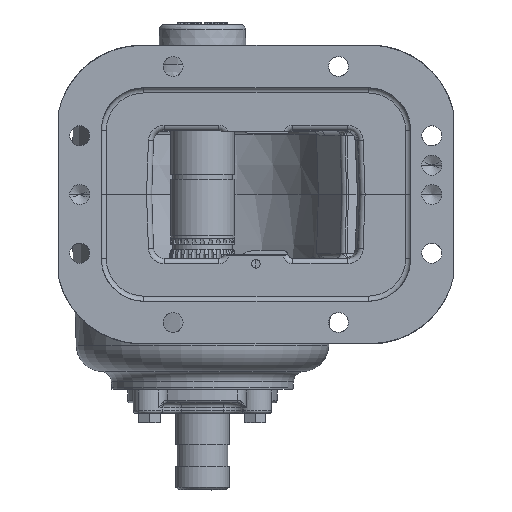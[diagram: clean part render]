
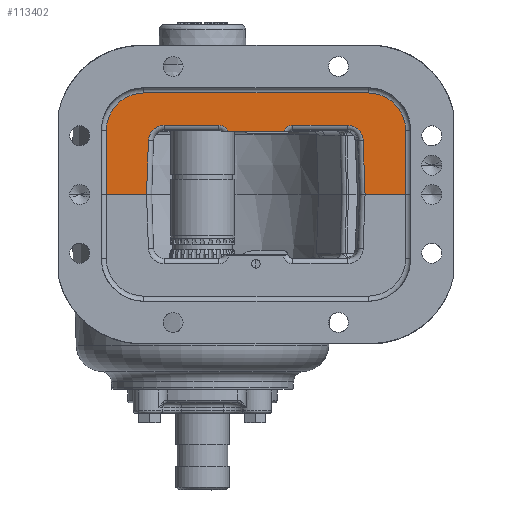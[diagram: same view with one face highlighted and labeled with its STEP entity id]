
A CAD part, front view. The second image highlights one B-rep face of the part: STEP entity #113402.
In plain terms, the highlighted planar face has unit normal (0, -1, 0).
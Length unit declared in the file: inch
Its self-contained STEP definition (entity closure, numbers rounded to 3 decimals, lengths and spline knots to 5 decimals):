
#1937 = DIRECTION ( 'NONE',  ( 0., -1., 0. ) ) ;
#3059 = EDGE_CURVE ( 'NONE', #14986, #62909, #58777, .T. ) ;
#3859 = ORIENTED_EDGE ( 'NONE', *, *, #99992, .F. ) ;
#3902 = CARTESIAN_POINT ( 'NONE',  ( 0., -4.3, -1.31007 ) ) ;
#4224 = LINE ( 'NONE', #63021, #30170 ) ;
#6053 = DIRECTION ( 'NONE',  ( 0.999, 0., -0.035 ) ) ;
#6973 = DIRECTION ( 'NONE',  ( 0., 1., 0. ) ) ;
#8438 = VERTEX_POINT ( 'NONE', #100921 ) ;
#8921 = CARTESIAN_POINT ( 'NONE',  ( -1.25, -4.3, 3.3962 ) ) ;
#9689 = CARTESIAN_POINT ( 'NONE',  ( 0., -4.3, 3.81007 ) ) ;
#10629 = CARTESIAN_POINT ( 'NONE',  ( -1.47, -4.3, -3.37 ) ) ;
#14228 = ORIENTED_EDGE ( 'NONE', *, *, #101539, .F. ) ;
#14986 = VERTEX_POINT ( 'NONE', #60827 ) ;
#16171 = CARTESIAN_POINT ( 'NONE',  ( -1.38, -4.3, 2.11752 ) ) ;
#18561 = VECTOR ( 'NONE', #61166, 39.37008 ) ;
#19119 = CIRCLE ( 'NONE', #106858, 0.24 ) ;
#19628 = VERTEX_POINT ( 'NONE', #93916 ) ;
#19778 = VECTOR ( 'NONE', #6053, 39.37008 ) ;
#21089 = CIRCLE ( 'NONE', #119016, 0.37 ) ;
#21224 = CARTESIAN_POINT ( 'NONE',  ( -1.5, -4.3, 4.76 ) ) ;
#21642 = VERTEX_POINT ( 'NONE', #72570 ) ;
#22176 = CARTESIAN_POINT ( 'NONE',  ( 0., -4.3, -3.37 ) ) ;
#23406 = VECTOR ( 'NONE', #120718, 39.37008 ) ;
#24895 = DIRECTION ( 'NONE',  ( 0., 0., 1. ) ) ;
#25577 = CARTESIAN_POINT ( 'NONE',  ( -1.47, -4.3, 1.89503 ) ) ;
#25608 = DIRECTION ( 'NONE',  ( 0., 0., -1. ) ) ;
#28134 = ORIENTED_EDGE ( 'NONE', *, *, #119642, .F. ) ;
#28279 = CARTESIAN_POINT ( 'NONE',  ( 0., -4.3, 4.76 ) ) ;
#29312 = ORIENTED_EDGE ( 'NONE', *, *, #3059, .F. ) ;
#29441 = CARTESIAN_POINT ( 'NONE',  ( -1.38, -4.3, 0.38248 ) ) ;
#29536 = AXIS2_PLACEMENT_3D ( 'NONE', #16171, #64098, #65981 ) ;
#30170 = VECTOR ( 'NONE', #101966, 39.37008 ) ;
#32479 = ORIENTED_EDGE ( 'NONE', *, *, #91728, .F. ) ;
#32543 = VECTOR ( 'NONE', #82544, 39.37008 ) ;
#32628 = LINE ( 'NONE', #83054, #23406 ) ;
#33367 = LINE ( 'NONE', #100439, #32543 ) ;
#35810 = CARTESIAN_POINT ( 'NONE',  ( -1.62, -4.3, 3.3962 ) ) ;
#36459 = ORIENTED_EDGE ( 'NONE', *, *, #71368, .F. ) ;
#37047 = AXIS2_PLACEMENT_3D ( 'NONE', #73549, #91460, #43522 ) ;
#37447 = DIRECTION ( 'NONE',  ( 0., 0., -1. ) ) ;
#37695 = DIRECTION ( 'NONE',  ( 0., -1., 0. ) ) ;
#37729 = AXIS2_PLACEMENT_3D ( 'NONE', #59485, #51137, #79934 ) ;
#38431 = EDGE_CURVE ( 'NONE', #110970, #8438, #68359, .T. ) ;
#39389 = LINE ( 'NONE', #10629, #101754 ) ;
#39749 = CIRCLE ( 'NONE', #37729, 0.88 ) ;
#39824 = ORIENTED_EDGE ( 'NONE', *, *, #90147, .F. ) ;
#40970 = CARTESIAN_POINT ( 'NONE',  ( -1.5, -4.3, -2.25 ) ) ;
#43522 = DIRECTION ( 'NONE',  ( 0., 0., -1. ) ) ;
#43546 = EDGE_CURVE ( 'NONE', #19628, #113345, #109696, .T. ) ;
#44068 = CARTESIAN_POINT ( 'NONE',  ( -1.62, -4.3, -0.8962 ) ) ;
#44525 = VERTEX_POINT ( 'NONE', #89167 ) ;
#47754 = VERTEX_POINT ( 'NONE', #25577 ) ;
#47844 = CIRCLE ( 'NONE', #29536, 0.24 ) ;
#51137 = DIRECTION ( 'NONE',  ( 0., 1., 0. ) ) ;
#51144 = ORIENTED_EDGE ( 'NONE', *, *, #119796, .F. ) ;
#52267 = ORIENTED_EDGE ( 'NONE', *, *, #101505, .F. ) ;
#52880 = ORIENTED_EDGE ( 'NONE', *, *, #60495, .F. ) ;
#53756 = CARTESIAN_POINT ( 'NONE',  ( 0., -4.3, 4.76 ) ) ;
#54729 = CARTESIAN_POINT ( 'NONE',  ( -1.25, -4.3, -0.8962 ) ) ;
#56346 = CARTESIAN_POINT ( 'NONE',  ( 0., -4.3, -3.37 ) ) ;
#56611 = DIRECTION ( 'NONE',  ( 0., -1., 0. ) ) ;
#57037 = LINE ( 'NONE', #28279, #76254 ) ;
#58777 = CIRCLE ( 'NONE', #95489, 0.88 ) ;
#59485 = CARTESIAN_POINT ( 'NONE',  ( -1.5, -4.3, -1.37 ) ) ;
#60495 = EDGE_CURVE ( 'NONE', #97739, #67225, #4224, .T. ) ;
#60733 = DIRECTION ( 'NONE',  ( 0., 0., -1. ) ) ;
#60827 = CARTESIAN_POINT ( 'NONE',  ( -2.38, -4.3, 3.88 ) ) ;
#61166 = DIRECTION ( 'NONE',  ( 0., 0., 1. ) ) ;
#62909 = VERTEX_POINT ( 'NONE', #21224 ) ;
#63021 = CARTESIAN_POINT ( 'NONE',  ( -1.26291, -4.3, 3.76597 ) ) ;
#63328 = PLANE ( 'NONE',  #37047 ) ;
#64098 = DIRECTION ( 'NONE',  ( 0., -1., 0. ) ) ;
#64396 = VERTEX_POINT ( 'NONE', #53756 ) ;
#64407 = EDGE_CURVE ( 'NONE', #19628, #68847, #33367, .T. ) ;
#65981 = DIRECTION ( 'NONE',  ( 0., 0., -1. ) ) ;
#66562 = VECTOR ( 'NONE', #24895, 39.37008 ) ;
#67225 = VERTEX_POINT ( 'NONE', #84202 ) ;
#68359 = CIRCLE ( 'NONE', #117296, 0.37 ) ;
#68847 = VERTEX_POINT ( 'NONE', #40970 ) ;
#71368 = EDGE_CURVE ( 'NONE', #67225, #103862, #21089, .T. ) ;
#72522 = CARTESIAN_POINT ( 'NONE',  ( -0.00419, -4.3, -1.30993 ) ) ;
#72570 = CARTESIAN_POINT ( 'NONE',  ( -1.62, -4.3, 2.11752 ) ) ;
#72672 = VECTOR ( 'NONE', #121963, 39.37008 ) ;
#73471 = LINE ( 'NONE', #112409, #66562 ) ;
#73549 = CARTESIAN_POINT ( 'NONE',  ( -3.5, -4.3, -3.37 ) ) ;
#74113 = CARTESIAN_POINT ( 'NONE',  ( -1.5, -4.3, 3.88 ) ) ;
#74900 = ORIENTED_EDGE ( 'NONE', *, *, #94859, .T. ) ;
#74953 = VERTEX_POINT ( 'NONE', #92903 ) ;
#75560 = LINE ( 'NONE', #56346, #88858 ) ;
#76254 = VECTOR ( 'NONE', #95989, 39.37008 ) ;
#77386 = CARTESIAN_POINT ( 'NONE',  ( -1.62, -4.3, -0.8962 ) ) ;
#78363 = DIRECTION ( 'NONE',  ( 0., 0., -1. ) ) ;
#79934 = DIRECTION ( 'NONE',  ( 0., 0., -1. ) ) ;
#80624 = FACE_OUTER_BOUND ( 'NONE', #99726, .T. ) ;
#82544 = DIRECTION ( 'NONE',  ( -1., 0., 0. ) ) ;
#83054 = CARTESIAN_POINT ( 'NONE',  ( -1.62, -4.3, 2.11752 ) ) ;
#84202 = CARTESIAN_POINT ( 'NONE',  ( -1.26291, -4.3, 3.76597 ) ) ;
#85605 = ORIENTED_EDGE ( 'NONE', *, *, #38431, .F. ) ;
#88461 = VERTEX_POINT ( 'NONE', #99045 ) ;
#88858 = VECTOR ( 'NONE', #121529, 39.37008 ) ;
#89167 = CARTESIAN_POINT ( 'NONE',  ( -1.62, -4.3, 0.38248 ) ) ;
#90147 = EDGE_CURVE ( 'NONE', #47754, #74953, #39389, .T. ) ;
#91460 = DIRECTION ( 'NONE',  ( 0., 1., 0. ) ) ;
#91728 = EDGE_CURVE ( 'NONE', #62909, #64396, #57037, .T. ) ;
#92903 = CARTESIAN_POINT ( 'NONE',  ( -1.47, -4.3, 0.60497 ) ) ;
#93916 = CARTESIAN_POINT ( 'NONE',  ( 0., -4.3, -2.25 ) ) ;
#94859 = EDGE_CURVE ( 'NONE', #97739, #64396, #75560, .T. ) ;
#95489 = AXIS2_PLACEMENT_3D ( 'NONE', #74113, #6973, #113043 ) ;
#95989 = DIRECTION ( 'NONE',  ( 1., 0., 0. ) ) ;
#97739 = VERTEX_POINT ( 'NONE', #9689 ) ;
#99009 = ORIENTED_EDGE ( 'NONE', *, *, #118511, .F. ) ;
#99045 = CARTESIAN_POINT ( 'NONE',  ( -2.38, -4.3, -1.37 ) ) ;
#99726 = EDGE_LOOP ( 'NONE', ( #39824, #116037, #51144, #36459, #52880, #74900, #32479, #29312, #14228, #28134, #101818, #100023, #3859, #85605, #52267, #99009 ) ) ;
#99992 = EDGE_CURVE ( 'NONE', #8438, #113345, #121020, .T. ) ;
#100023 = ORIENTED_EDGE ( 'NONE', *, *, #43546, .T. ) ;
#100439 = CARTESIAN_POINT ( 'NONE',  ( -1.5, -4.3, -2.25 ) ) ;
#100921 = CARTESIAN_POINT ( 'NONE',  ( -1.26291, -4.3, -1.26597 ) ) ;
#101505 = EDGE_CURVE ( 'NONE', #44525, #110970, #113034, .T. ) ;
#101539 = EDGE_CURVE ( 'NONE', #88461, #14986, #73471, .T. ) ;
#101754 = VECTOR ( 'NONE', #78363, 39.37008 ) ;
#101818 = ORIENTED_EDGE ( 'NONE', *, *, #64407, .F. ) ;
#101966 = DIRECTION ( 'NONE',  ( -0.999, 0., -0.035 ) ) ;
#103862 = VERTEX_POINT ( 'NONE', #35810 ) ;
#106858 = AXIS2_PLACEMENT_3D ( 'NONE', #29441, #1937, #60733 ) ;
#109696 = LINE ( 'NONE', #22176, #18561 ) ;
#110970 = VERTEX_POINT ( 'NONE', #77386 ) ;
#112409 = CARTESIAN_POINT ( 'NONE',  ( -2.38, -4.3, 3.88 ) ) ;
#113034 = LINE ( 'NONE', #44068, #72672 ) ;
#113043 = DIRECTION ( 'NONE',  ( 0., 0., -1. ) ) ;
#113345 = VERTEX_POINT ( 'NONE', #3902 ) ;
#113402 = ADVANCED_FACE ( 'NONE', ( #80624 ), #63328, .F. ) ;
#116037 = ORIENTED_EDGE ( 'NONE', *, *, #120399, .F. ) ;
#117296 = AXIS2_PLACEMENT_3D ( 'NONE', #54729, #56611, #37447 ) ;
#118511 = EDGE_CURVE ( 'NONE', #74953, #44525, #19119, .T. ) ;
#119016 = AXIS2_PLACEMENT_3D ( 'NONE', #8921, #37695, #25608 ) ;
#119642 = EDGE_CURVE ( 'NONE', #68847, #88461, #39749, .T. ) ;
#119796 = EDGE_CURVE ( 'NONE', #103862, #21642, #32628, .T. ) ;
#120399 = EDGE_CURVE ( 'NONE', #21642, #47754, #47844, .T. ) ;
#120718 = DIRECTION ( 'NONE',  ( 0., 0., -1. ) ) ;
#121020 = LINE ( 'NONE', #72522, #19778 ) ;
#121529 = DIRECTION ( 'NONE',  ( 0., 0., 1. ) ) ;
#121963 = DIRECTION ( 'NONE',  ( 0., 0., -1. ) ) ;
